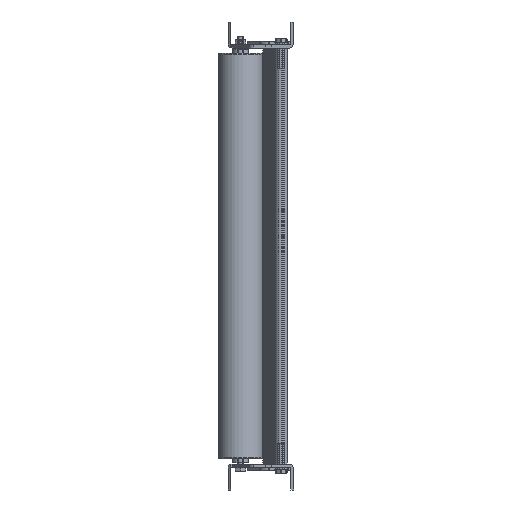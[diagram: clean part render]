
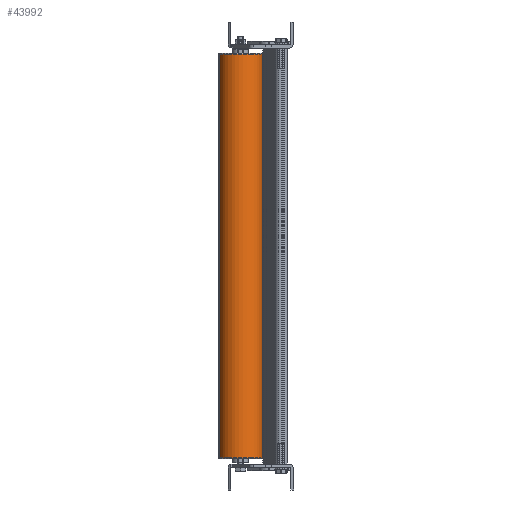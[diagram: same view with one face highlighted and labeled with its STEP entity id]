
A CAD part, left-side view. The second image highlights one B-rep face of the part: STEP entity #43992.
In plain terms, the highlighted cylindrical face has radius 21.25 mm (diameter 42.5 mm), a partial arc.
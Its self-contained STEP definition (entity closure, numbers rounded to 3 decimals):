
#4972 = DIRECTION ( 'NONE',  ( 0., 0., 1. ) ) ;
#5056 = ORIENTED_EDGE ( 'NONE', *, *, #23704, .T. ) ;
#6016 = AXIS2_PLACEMENT_3D ( 'NONE', #45573, #30139, #25358 ) ;
#6227 = AXIS2_PLACEMENT_3D ( 'NONE', #21826, #21468, #63324 ) ;
#7336 = CIRCLE ( 'NONE', #6227, 21.25 ) ;
#11166 = VECTOR ( 'NONE', #4972, 1000. ) ;
#12952 = ORIENTED_EDGE ( 'NONE', *, *, #55114, .F. ) ;
#16692 = VERTEX_POINT ( 'NONE', #16828 ) ;
#16773 = CARTESIAN_POINT ( 'NONE',  ( -1415.512, 374.388, -406.5 ) ) ;
#16828 = CARTESIAN_POINT ( 'NONE',  ( -1415.512, 374.388, -18.5 ) ) ;
#17721 = CARTESIAN_POINT ( 'NONE',  ( -1415.512, 374.388, 327.541 ) ) ;
#21468 = DIRECTION ( 'NONE',  ( 0., 0., 1. ) ) ;
#21500 = CIRCLE ( 'NONE', #58686, 21.25 ) ;
#21826 = CARTESIAN_POINT ( 'NONE',  ( -1421.681, 394.723, -406.5 ) ) ;
#22131 = DIRECTION ( 'NONE',  ( 0.29, -0.957, 0. ) ) ;
#23704 = EDGE_CURVE ( 'NONE', #16692, #59256, #21500, .T. ) ;
#24055 = ORIENTED_EDGE ( 'NONE', *, *, #31410, .T. ) ;
#24727 = VERTEX_POINT ( 'NONE', #16773 ) ;
#25358 = DIRECTION ( 'NONE',  ( -0.29, 0.957, 0. ) ) ;
#30139 = DIRECTION ( 'NONE',  ( 0., 0., 1. ) ) ;
#30726 = CARTESIAN_POINT ( 'NONE',  ( -1427.85, 415.058, 327.541 ) ) ;
#31410 = EDGE_CURVE ( 'NONE', #64899, #24727, #7336, .T. ) ;
#33472 = DIRECTION ( 'NONE',  ( 0., 0., 1. ) ) ;
#36857 = LINE ( 'NONE', #30726, #11166 ) ;
#40930 = CARTESIAN_POINT ( 'NONE',  ( -1427.85, 415.058, -406.5 ) ) ;
#42687 = CARTESIAN_POINT ( 'NONE',  ( -1421.681, 394.723, -18.5 ) ) ;
#43349 = DIRECTION ( 'NONE',  ( 0., 0., -1. ) ) ;
#43816 = VECTOR ( 'NONE', #33472, 1000. ) ;
#43992 = ADVANCED_FACE ( 'NONE', ( #51059 ), #66883, .T. ) ;
#45573 = CARTESIAN_POINT ( 'NONE',  ( -1421.681, 394.723, 327.541 ) ) ;
#48132 = CARTESIAN_POINT ( 'NONE',  ( -1427.85, 415.058, -18.5 ) ) ;
#51059 = FACE_OUTER_BOUND ( 'NONE', #59928, .T. ) ;
#55114 = EDGE_CURVE ( 'NONE', #64899, #59256, #36857, .T. ) ;
#58686 = AXIS2_PLACEMENT_3D ( 'NONE', #42687, #43349, #22131 ) ;
#59256 = VERTEX_POINT ( 'NONE', #48132 ) ;
#59552 = LINE ( 'NONE', #17721, #43816 ) ;
#59928 = EDGE_LOOP ( 'NONE', ( #24055, #64613, #5056, #12952 ) ) ;
#63324 = DIRECTION ( 'NONE',  ( -0.29, 0.957, 0. ) ) ;
#64613 = ORIENTED_EDGE ( 'NONE', *, *, #67788, .T. ) ;
#64899 = VERTEX_POINT ( 'NONE', #40930 ) ;
#66883 = CYLINDRICAL_SURFACE ( 'NONE', #6016, 21.25 ) ;
#67788 = EDGE_CURVE ( 'NONE', #24727, #16692, #59552, .T. ) ;
